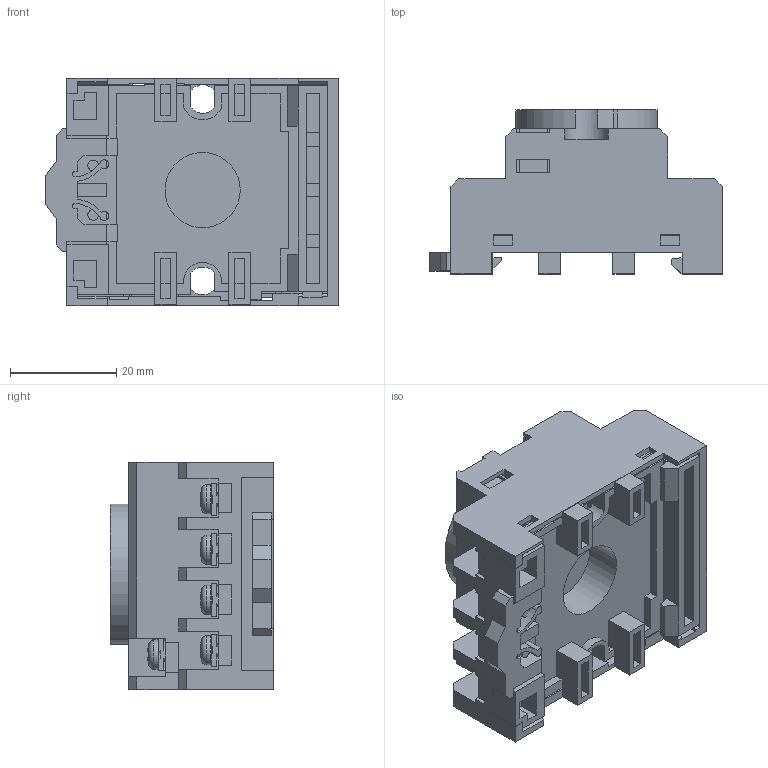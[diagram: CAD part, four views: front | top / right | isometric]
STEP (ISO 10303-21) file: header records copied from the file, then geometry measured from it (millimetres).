
FILE_DESCRIPTION(/* description */ (''),/* implementation_level */ '2;1');
FILE_NAME(/* name */ '10f-3z-c1.stp',/* time_stamp */ '2023-06-19T14:50:04+08:00',/* author */ (''),/* organization */ (''),/* preprocessor_version */ 'ST-DEVELOPER v11',/* originating_system */ 'SIEMENS UGS NX 6.0',/* authorisation */ '');
FILE_SCHEMA (('CONFIG_CONTROL_DESIGN'));
Products named in the file (1): 10f-3z-c1
Bounding box: 55 x 30.8 x 42.7 mm (x, y, z)
Volume: 26912 mm3; surface area: 29051 mm2
Topology: 25 solids, 25 shells, 1852 faces, 5172 edges, 3212 vertices
Faces by surface type: plane 1124, cylinder 386, bspline 198, sphere 110, cone 22, torus 12
Full cylindrical faces by diameter (mm): 2.02 x2, 2.5 x99, 2.9 x11, 3 x11, 5.498 x11, 11 x1, 14.14 x1, 16.16 x1
Entity records: 79431 total; most frequent: CARTESIAN_POINT 36620, ORIENTED_EDGE 9196, DIRECTION 8410, EDGE_CURVE 4598, LINE 3274, VECTOR 3274, VERTEX_POINT 2987, AXIS2_PLACEMENT_3D 2568
